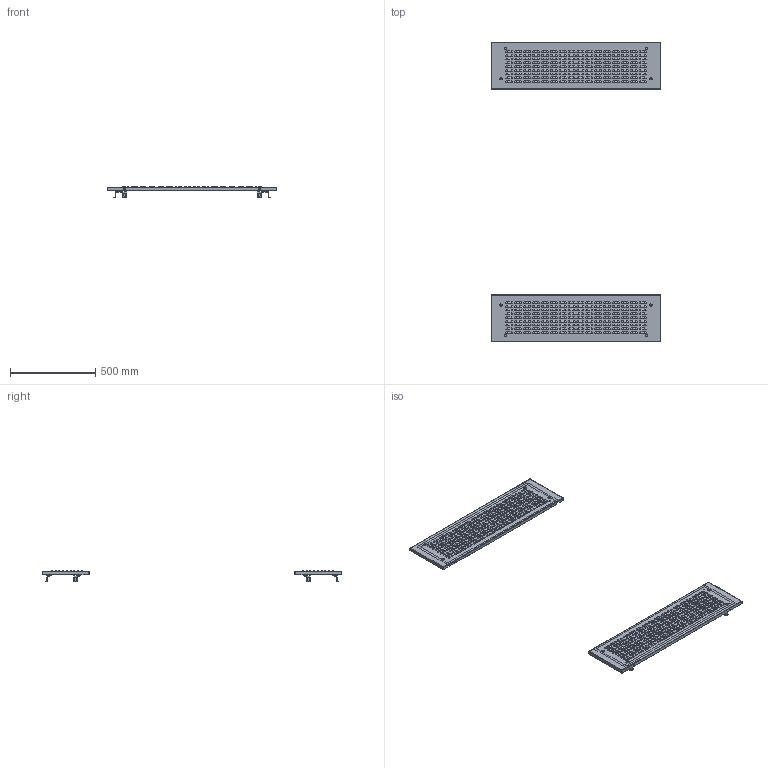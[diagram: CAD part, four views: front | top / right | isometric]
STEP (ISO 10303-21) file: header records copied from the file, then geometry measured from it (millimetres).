
FILE_DESCRIPTION(('CAx-IF Rec.Pracs.---Model Styling and Organization---1.2---2011-12-15','CAx-IF Rec.Pracs.---Geometric and Assembly Validation Properties---4.1---2014-06-16','CAx-IF Rec.Pracs.---PMI Polyline Presentation---2.0---2013-05-24'),'2;1');
FILE_NAME('R5CPFAM1033.stp','2021-05-06T03:31:55+03:00',(''),(''),'STEP Interface 4.4 by CT CoreTechnologie','3D_Evolution4.4 by CT CoreTechnologie','');
FILE_SCHEMA(('AUTOMOTIVE_DESIGN { 1 0 10303 214 1 1 1 1 }'));
Length unit declared in the file: millimetre
Products named in the file (13): R5CPFAM1033; A1100001; M6x16-DIN 7985 ISR_thread; AC00C172_AC00C172; RB.0544.00.00.1_-01; RB.0742.00.00.0 ÑÁ_-03; AC00C061_AC00C061; RB.0742.00.01.0_-03; PF 7x14 R5CPFAM_- 300x1000; Ì6õ12-A5100231_straight; RB.0544.00.00.1_-00; RB.0740.00.00.0 ÑÁ_-03; RB.0740.00.01.0_-03
Assembly tree (42 placements, depth 3):
  R5CPFAM1033
    A1100001  x8
    M6x16-DIN 7985 ISR_thread  x8
    AC00C172_AC00C172  x8
    RB.0544.00.00.1_-01  x4
    RB.0742.00.00.0 ÑÁ_-03
      AC00C061_AC00C061
      RB.0742.00.01.0_-03
      PF 7x14 R5CPFAM_- 300x1000
      Ì6õ12-A5100231_straight
    RB.0544.00.00.1_-00  x4
    RB.0740.00.00.0 ÑÁ_-03
      AC00C061_AC00C061
      Ì6õ12-A5100231_straight
      RB.0740.00.01.0_-03
      PF 7x14 R5CPFAM_- 300x1000
Bounding box: 994 x 1754 x 63.5 mm (x, y, z)
Surface area: 1575928.1 mm2 (no closed solid volume)
Topology: 0 solids, 60 shells, 4980 faces, 12791 edges, 8199 vertices
Faces by surface type: bspline 2376, cylinder 1402, plane 1202
Entity records: 174668 total; most frequent: CARTESIAN_POINT 67387, DIRECTION 22858, ORIENTED_EDGE 22282, EDGE_CURVE 11141, AXIS2_PLACEMENT_3D 9706, CIRCLE 7661, VERTEX_POINT 7099, EDGE_LOOP 4948
